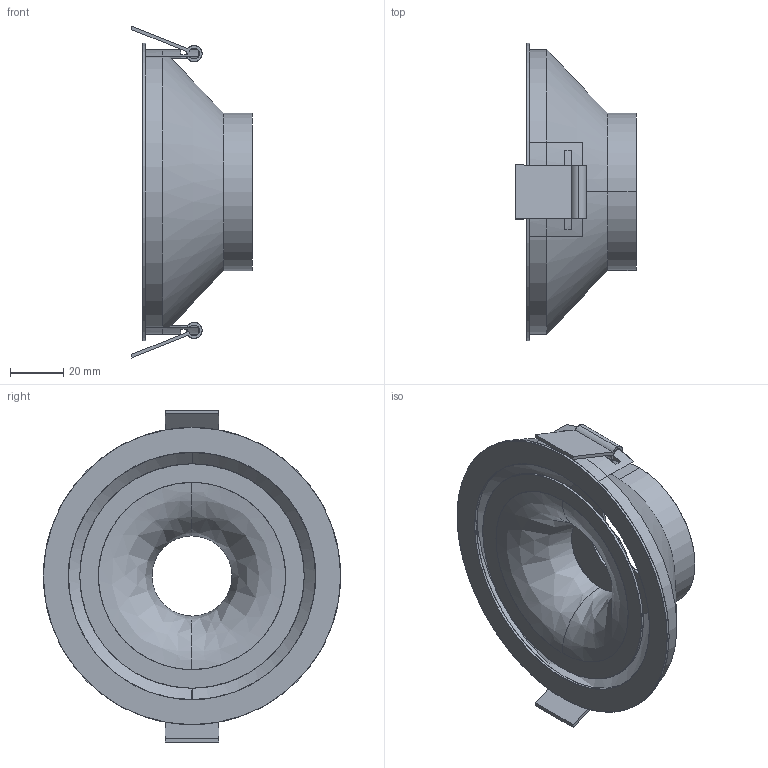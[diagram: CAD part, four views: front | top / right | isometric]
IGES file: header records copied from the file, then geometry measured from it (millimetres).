
Start section: SolidWorks IGES file using analytic representation for surfaces
Global section: file name: C:\Users\danielet\Desktop\ISMAIL\TERMINADOS\APEX-P36881-3D\APEX-P36881-3D.IGS; native system: SolidWorks 2018; preprocessor: SolidWorks 2018; author: danielet; date: 230424.081533; units: millimetre
Bounding box: 45.05 x 111.27 x 124.27 mm (x, y, z)
Surface area: 56747.5 mm2 (no closed solid volume)
Topology: 0 solids, 0 shells, 73 faces, 1832 edges, 1832 vertices
Faces by surface type: bspline 38, revolution 35
